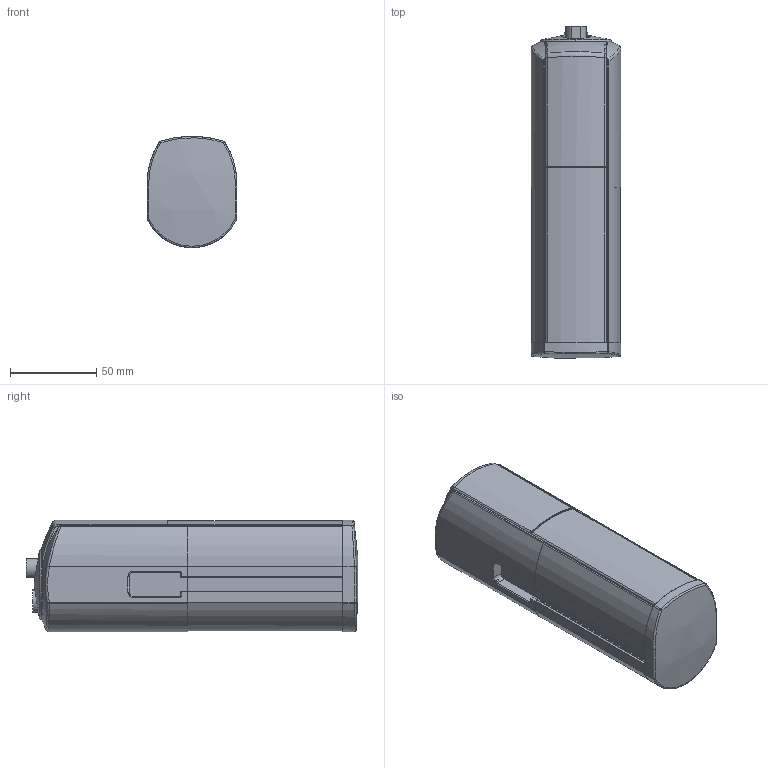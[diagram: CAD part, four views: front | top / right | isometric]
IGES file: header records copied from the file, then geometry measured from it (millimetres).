
Global section: file name: No Iges File Name specified; native system: Autodesk Inventor 2009; preprocessor: AutoDesk Inventor Iges Exporter R2009; author: seisen; date: 20100915.095956; units: millimetre
Bounding box: 52 x 192.72 x 64.7 mm (x, y, z)
Volume: 314227.7 mm3; surface area: 76018.2 mm2
Topology: 2 solids, 2 shells, 460 faces, 1275 edges, 815 vertices
Faces by surface type: plane 205, cylinder 107, revolution 78, bspline 47, torus 15, sphere 5, cone 3
